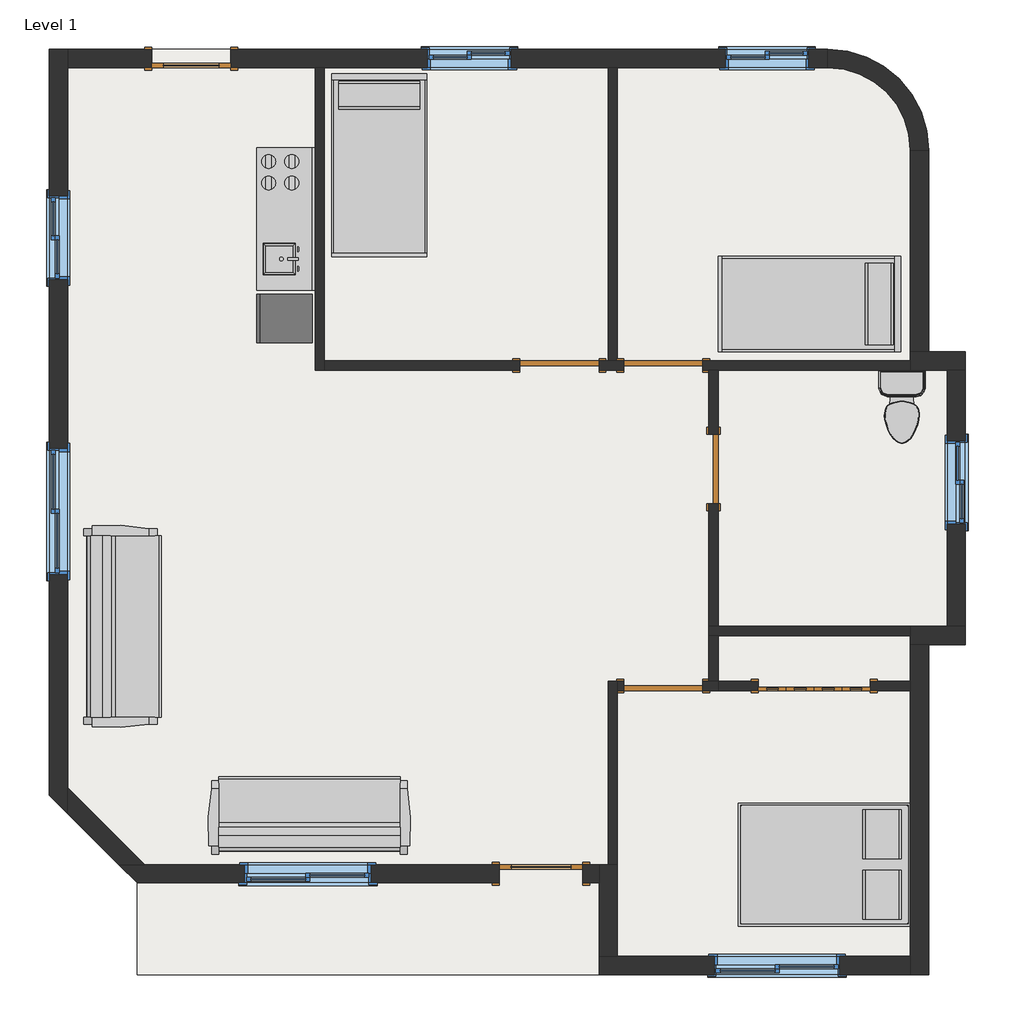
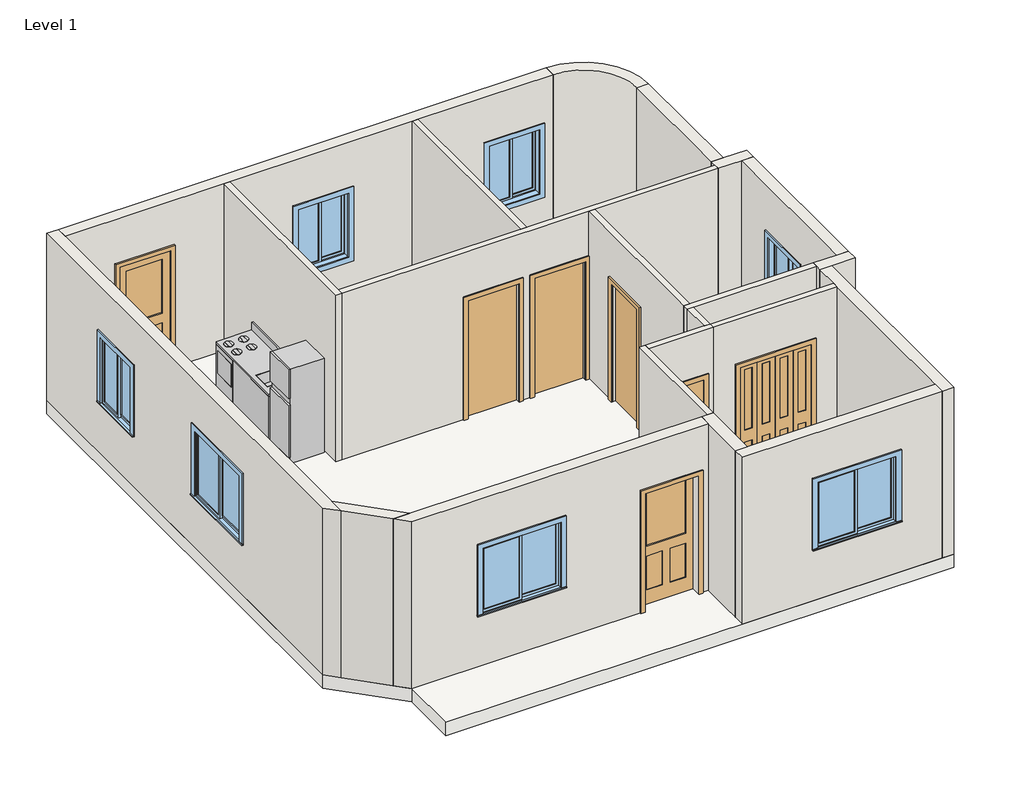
# One storey: 21 walls, 7 doors, 7 windows, 5 furniture elements, 2 flow terminals, 1 slab.
"""IFC4 building model written with IfcOpenShell, lengths in millimetres."""

from ifc_helpers import new_model, si_unit, point, frame, frame_2d, origin, origin_with_axes, place, context, project, spatial, polyline, circle_curve, trimmed, segment, composite_curve, outline, extrude, faceted_brep, transform, mapped, element, save
from components import m_bifold_4_panel_1220_x_2134mm_c9b228a8, m_single_decorative_1_0864_x_2134mm_a8b8a0d3, m_single_decorative_1_0914_x_2134mm_d79a5f66, m_single_flush_0762_x_2134mm_2f099e9c, m_single_flush_0864_x_2134mm_3838e64d, m_single_flush_0864_x_2134mm_bdbe8edc, m_kitchen_unit_635_mmx2135_mm_826748c3, m_toilet_domestic_3d_m_toilet_domestic_3d_5cb52bd4, m_toilet_domestic_3d_m_toilet_domestic_3d_183bbd19, m_bed_box_1346_x_1880mm_double_9a731973, m_bed_shaker_1040_x_1981mm_twin_31f1bf66, m_sofa_pensi_2134mm_eda8efce, m_sliding_with_trim_0915_x_1220mm_c5f69082, m_sliding_with_trim_1372_x_1220mm_1cbd48f5

model = new_model("IFC4")

# Units and contexts
model_context = context("Model", 3, world=origin())
ifc_project = project(units=[si_unit("LENGTHUNIT", "METRE", prefix="MILLI")], contexts=[model_context])

# Site, building, storey
site = spatial("IfcSite", under=ifc_project)
building = spatial("IfcBuilding", under=site)
storey = spatial("IfcBuildingStorey", under=building, Name="Level 1", Elevation=0.0)

# Doors
placement = place(None, origin())
m_bifold_4_panel_1220_x_2134mm_shape = m_bifold_4_panel_1220_x_2134mm_c9b228a8(model_context)
element("IfcDoor", 1, ObjectType="M_Bifold-4 Panel : 1220 x 2134mm", at=placement, inside=storey, context=model_context, shape_type="MappedRepresentation", body=[
    mapped(m_bifold_4_panel_1220_x_2134mm_shape, transform((-9012.9123896, -2705.4324328, 0.0), x_axis=(-1.0, 0.0, 0.0), y_axis=(0.0, -1.0, 0.0), z_axis=(0.0, 0.0, 1.0))),
])
m_single_decorative_1_0864_x_2134mm_shape = m_single_decorative_1_0864_x_2134mm_a8b8a0d3(model_context)
element("IfcDoor", 2, ObjectType="M_Single-Decorative 1 : 0864 x 2134mm", at=placement, inside=storey, context=model_context, shape_type="MappedRepresentation", body=[
    mapped(m_single_decorative_1_0864_x_2134mm_shape, transform((-15812.9123896, 4144.5675672, 0.0), x_axis=(-1.0, 0.0, 0.0), y_axis=(0.0, -1.0, 0.0), z_axis=(0.0, 0.0, 1.0))),
])
m_single_decorative_1_0914_x_2134mm_shape = m_single_decorative_1_0914_x_2134mm_d79a5f66(model_context)
element("IfcDoor", 3, ObjectType="M_Single-Decorative 1 : 0914 x 2134mm", at=placement, inside=storey, context=model_context, shape_type="MappedRepresentation", body=[
    mapped(m_single_decorative_1_0914_x_2134mm_shape, transform((-11994.9123896, -4755.4324328, 0.0), x_axis=(1.0, 0.0, 0.0), y_axis=(0.0, 1.0, 0.0), z_axis=(0.0, 0.0, 1.0))),
])
m_single_flush_0762_x_2134mm_shape = m_single_flush_0762_x_2134mm_2f099e9c(model_context)
element("IfcDoor", 4, ObjectType="M_Single-Flush : 0762 x 2134mm", at=placement, inside=storey, context=model_context, shape_type="MappedRepresentation", body=[
    mapped(m_single_flush_0762_x_2134mm_shape, transform((-10112.9123896, -336.4324328, 0.0), x_axis=(0.0, 1.0, 0.0), y_axis=(-1.0, 0.0, 0.0), z_axis=(0.0, 0.0, 1.0))),
])
m_single_flush_0864_x_2134mm_shape = m_single_flush_0864_x_2134mm_3838e64d(model_context)
element("IfcDoor", 5, ObjectType="M_Single-Flush : 0864 x 2134mm", at=placement, inside=storey, context=model_context, shape_type="MappedRepresentation", body=[
    mapped(m_single_flush_0864_x_2134mm_shape, transform((-10662.9123896, -2705.4324328, 0.0), x_axis=(-1.0, 0.0, 0.0), y_axis=(0.0, -1.0, 0.0), z_axis=(0.0, 0.0, 1.0))),
])
element("IfcDoor", 6, ObjectType="M_Single-Flush : 0864 x 2134mm", at=placement, inside=storey, context=model_context, shape_type="MappedRepresentation", body=[
    mapped(m_single_flush_0864_x_2134mm_shape, transform((-11794.9123896, 794.5675672, 0.0), x_axis=(1.0, 0.0, 0.0), y_axis=(0.0, 1.0, 0.0), z_axis=(0.0, 0.0, 1.0))),
])
m_single_flush_0864_x_2134mm_2_shape = m_single_flush_0864_x_2134mm_bdbe8edc(model_context)
element("IfcDoor", 7, ObjectType="M_Single-Flush : 0864 x 2134mm", at=placement, inside=storey, context=model_context, shape_type="MappedRepresentation", body=[
    mapped(m_single_flush_0864_x_2134mm_2_shape, transform((-10662.9123896, 794.5675672, 0.0), x_axis=(-1.0, 0.0, 0.0), y_axis=(0.0, -1.0, 0.0), z_axis=(0.0, 0.0, 1.0))),
])

# Flow terminals
m_kitchen_unit_635_mmx2135_mm_shape = m_kitchen_unit_635_mmx2135_mm_826748c3(model_context)
element("IfcFlowTerminal", 8, ObjectType="M_Kitchen Unit : 635 mmx2135 mm", at=placement, inside=storey, context=model_context, shape_type="MappedRepresentation", body=[
    mapped(m_kitchen_unit_635_mmx2135_mm_shape, transform((-14462.9123896, 2394.5675672, 0.0), x_axis=(-1.0000000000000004, 0.0, 0.0), y_axis=(0.0, -1.0000000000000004, 0.0), z_axis=(0.0, 0.0, 1.0))),
])
m_toilet_domestic_3d_m_toilet_domestic_3d_shape = m_toilet_domestic_3d_m_toilet_domestic_3d_5cb52bd4(model_context)
m_toilet_domestic_3d_m_toilet_domestic_3d_2_shape = m_toilet_domestic_3d_m_toilet_domestic_3d_183bbd19(model_context)
element("IfcFlowTerminal", 9, ObjectType="M_Toilet-Domestic-3D : M_Toilet-Domestic-3D", at=placement, inside=storey, context=model_context, shape_type="MappedRepresentation", body=[
    mapped(m_toilet_domestic_3d_m_toilet_domestic_3d_shape, transform((-8056.308417, 249.8715399, 0.0), x_axis=(1.0, 0.0, 0.0), y_axis=(0.0, 1.0, 0.0), z_axis=(0.0, 0.0, 1.0))),
    mapped(m_toilet_domestic_3d_m_toilet_domestic_3d_2_shape, transform((-8056.308417, 249.8715399, 0.0), x_axis=(1.0, 0.0, 0.0), y_axis=(0.0, 1.0, 0.0), z_axis=(0.0, 0.0, 1.0))),
])

# Furniture
m_bed_box_1346_x_1880mm_double_shape = m_bed_box_1346_x_1880mm_double_9a731973(model_context)
element("IfcFurniture", 10, ObjectType="M_Bed-Box : 1346 x 1880mm - Double", at=placement, inside=storey, context=model_context, shape_type="MappedRepresentation", body=[
    mapped(m_bed_box_1346_x_1880mm_double_shape, transform((-8668.4828814, -4316.2799738, 0.0), x_axis=(0.0, -1.0, 0.0), y_axis=(1.0, 0.0, 0.0), z_axis=(0.0, 0.0, 1.0))),
])
m_bed_shaker_1040_x_1981mm_twin_shape = m_bed_shaker_1040_x_1981mm_twin_31f1bf66(model_context)
element("IfcFurniture", 11, ObjectType="M_Bed-Shaker : 1040 x 1981mm - Twin", at=placement, inside=storey, context=model_context, shape_type="MappedRepresentation", body=[
    mapped(m_bed_shaker_1040_x_1981mm_twin_shape, transform((-8081.7123896, 1446.2175672, 0.0), x_axis=(0.0, -1.0000000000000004, 0.0), y_axis=(1.0000000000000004, 0.0, 0.0), z_axis=(0.0, 0.0, 1.0))),
])
element("IfcFurniture", 12, ObjectType="M_Bed-Shaker : 1040 x 1981mm - Twin", at=placement, inside=storey, context=model_context, shape_type="MappedRepresentation", body=[
    mapped(m_bed_shaker_1040_x_1981mm_twin_shape, transform((-13743.1623896, 3964.5675672, 0.0), x_axis=(1.0, 0.0, 0.0), y_axis=(0.0, 1.0, 0.0), z_axis=(0.0, 0.0, 1.0))),
])
m_sofa_pensi_2134mm_shape = m_sofa_pensi_2134mm_eda8efce(model_context)
element("IfcFurniture", 13, ObjectType="M_Sofa-Pensi : 2134mm", at=placement, inside=storey, context=model_context, shape_type="MappedRepresentation", body=[
    mapped(m_sofa_pensi_2134mm_shape, transform((-14244.3061396, -3838.3225967, 0.0), x_axis=(-0.9999999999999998, 0.0, 0.0), y_axis=(0.0, -0.9999999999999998, 0.0), z_axis=(0.0, 0.0, 1.0))),
])
element("IfcFurniture", 14, ObjectType="M_Sofa-Pensi : 2134mm", at=placement, inside=storey, context=model_context, shape_type="MappedRepresentation", body=[
    mapped(m_sofa_pensi_2134mm_shape, transform((-16285.8025536, -2334.0386828, 0.0), x_axis=(0.0, 1.0000000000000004, 0.0), y_axis=(-1.0000000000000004, 0.0, 0.0), z_axis=(0.0, 0.0, 1.0))),
])

# Slab
element("IfcSlab", 15, ObjectType="Standard Timber-Wood Finish", at=placement, inside=storey, context=model_context, shape_type="SweptSolid", body=[
    extrude(outline(composite_curve([segment(polyline([(-7762.9123896, 944.5675672), (-7362.9123896, 944.5675672), (-7362.9123896, -2255.4324328), (-7762.9123896, -2255.4324328), (-7762.9123896, -5855.4324328), (-16404.3337459, -5855.4324328), (-16404.3337459, -4855.4324328), (-17362.9123896, -3896.853789), (-17362.9123896, 4244.5675672), (-8862.9123896, 4244.5675672)]), True, "CONTINUOUS"), segment(trimmed(circle_curve(frame_2d((-8862.9123896, 3144.5675672)), 1100.0), [point((-8862.9123896, 4244.5675672))], [point((-7762.9123896, 3144.5675672))], False, "CARTESIAN"), True, "CONTINUOUS"), segment(polyline([(-7762.9123896, 3144.5675672), (-7762.9123896, 944.5675672)]), True, "CONTINUOUS")], self_intersect=False)), frame((0.0, 0.0, -241.0), z_axis=(0.0, 0.0, 1.0), x_axis=(1.0, 0.0, 0.0)), (0.0, 0.0, 1.0), 241.0),
])

# Walls
element("IfcWall", 16, ObjectType="Generic - 100mm", at=placement, inside=storey, context=model_context, shape_type="Brep", body=[
    faceted_brep([(-7962.9123896, -2055.4324328, 0.0), (-10062.9123896, -2055.4324328, 0.0), (-10162.9123896, -2055.4324328, 0.0), (-10162.9123896, -2055.4324328, 3000.0), (-10062.9123896, -2055.4324328, 3000.0), (-7962.9123896, -2055.4324328, 3000.0), (-7962.9123896, -2155.4324328, 0.0), (-7962.9123896, -2155.4324328, 3000.0), (-10062.9123896, -2155.4324328, 3000.0), (-10162.9123896, -2155.4324328, 3000.0), (-10162.9123896, -2155.4324328, 0.0), (-10062.9123896, -2155.4324328, 0.0)], [[[0, 1, 2, 3, 4, 5]], [[6, 7, 8, 9, 10, 11]], [[2, 1, 0, 6, 11, 10]], [[5, 4, 3, 9, 8, 7]], [[0, 5, 7, 6]], [[3, 2, 10, 9]]]),
])
element("IfcWall", 17, ObjectType="Generic - 100mm", at=placement, inside=storey, context=model_context, shape_type="Brep", body=[
    faceted_brep([(-11262.9123896, -2655.4324328, 0.0), (-11262.9123896, -4655.4324328, 0.0), (-11262.9123896, -4655.4324328, 3000.0), (-11262.9123896, -2655.4324328, 3000.0), (-11162.9123896, -2655.4324328, 0.0), (-11162.9123896, -2655.4324328, 3000.0), (-11162.9123896, -2755.4324328, 3000.0), (-11162.9123896, -4655.4324328, 3000.0), (-11162.9123896, -4655.4324328, 0.0), (-11162.9123896, -2755.4324328, 0.0)], [[[0, 1, 2, 3]], [[4, 5, 6, 7, 8, 9]], [[1, 0, 4, 9, 8]], [[3, 2, 7, 6, 5]], [[2, 1, 8, 7]], [[0, 3, 5, 4]]]),
])
element("IfcWall", 18, ObjectType="Generic - 100mm", at=placement, inside=storey, context=model_context, shape_type="Brep", body=[
    faceted_brep([(-11094.9123896, -2655.4324328, 2134.0), (-11094.9123896, -2655.4324328, 0.0), (-11162.9123896, -2655.4324328, 0.0), (-11162.9123896, -2655.4324328, 3000.0), (-10162.9123896, -2655.4324328, 3000.0), (-10062.9123896, -2655.4324328, 3000.0), (-10062.9123896, -2655.4324328, 0.0), (-10162.9123896, -2655.4324328, 0.0), (-10230.9123896, -2655.4324328, 0.0), (-10230.9123896, -2655.4324328, 2134.0), (-11162.9123896, -2755.4324328, 0.0), (-11094.9123896, -2755.4324328, 0.0), (-11094.9123896, -2755.4324328, 2134.0), (-10230.9123896, -2755.4324328, 2134.0), (-10230.9123896, -2755.4324328, 0.0), (-10062.9123896, -2755.4324328, 0.0), (-10062.9123896, -2755.4324328, 3000.0), (-11162.9123896, -2755.4324328, 3000.0)], [[[0, 1, 2, 3, 4, 5, 6, 7, 8, 9]], [[10, 11, 12, 13, 14, 15, 16, 17]], [[2, 1, 11, 10]], [[8, 7, 6, 15, 14]], [[5, 4, 3, 17, 16]], [[3, 2, 10, 17]], [[6, 5, 16, 15]], [[12, 11, 1, 0]], [[13, 12, 0, 9]], [[14, 13, 9, 8]]]),
])
element("IfcWall", 19, ObjectType="Generic - 100mm", at=placement, inside=storey, context=model_context, shape_type="SweptSolid", body=[
    extrude(outline(polyline([(-10162.9123896, -2655.4324328), (-10162.9123896, -2155.4324328), (-10062.9123896, -2155.4324328), (-10062.9123896, -2655.4324328), (-10162.9123896, -2655.4324328)])), origin_with_axes(), (0.0, 0.0, 1.0), 3000.0),
])
element("IfcWall", 20, ObjectType="Generic - 100mm", at=placement, inside=storey, context=model_context, shape_type="SweptSolid", body=[
    extrude(outline(polyline([(3000.0, -7962.9123896), (3000.0, -10062.9123896), (0.0, -10062.9123896), (0.0, -9622.9123896), (2134.0, -9622.9123896), (2134.0, -8402.9123896), (0.0, -8402.9123896), (0.0, -7962.9123896), (3000.0, -7962.9123896)])), frame((0.0, -2755.4324328, 0.0), z_axis=(0.0, 1.0, 0.0), x_axis=(0.0, 0.0, 1.0)), (0.0, 0.0, 1.0), 100.0),
])
element("IfcWall", 21, ObjectType="Generic - 100mm", at=placement, inside=storey, context=model_context, shape_type="Brep", body=[
    faceted_brep([(-11094.9123896, 844.5675672, 0.0), (-11162.9123896, 844.5675672, 0.0), (-11262.9123896, 844.5675672, 0.0), (-11362.9123896, 844.5675672, 0.0), (-11362.9123896, 844.5675672, 2134.0), (-12226.9123896, 844.5675672, 2134.0), (-12226.9123896, 844.5675672, 0.0), (-14362.9123896, 844.5675672, 0.0), (-14362.9123896, 844.5675672, 3000.0), (-11262.9123896, 844.5675672, 3000.0), (-11162.9123896, 844.5675672, 3000.0), (-7962.9123896, 844.5675672, 3000.0), (-7962.9123896, 844.5675672, 0.0), (-10230.9123896, 844.5675672, 0.0), (-10230.9123896, 844.5675672, 2134.0), (-11094.9123896, 844.5675672, 2134.0), (-11362.9123896, 744.5675672, 2134.0), (-11362.9123896, 744.5675672, 0.0), (-11094.9123896, 744.5675672, 0.0), (-11094.9123896, 744.5675672, 2134.0), (-10230.9123896, 744.5675672, 2134.0), (-10230.9123896, 744.5675672, 0.0), (-10162.9123896, 744.5675672, 0.0), (-10062.9123896, 744.5675672, 0.0), (-7962.9123896, 744.5675672, 0.0), (-7962.9123896, 744.5675672, 3000.0), (-10062.9123896, 744.5675672, 3000.0), (-10162.9123896, 744.5675672, 3000.0), (-14362.9123896, 744.5675672, 3000.0), (-14362.9123896, 744.5675672, 0.0), (-12226.9123896, 744.5675672, 0.0), (-12226.9123896, 744.5675672, 2134.0)], [[[0, 1, 2, 3, 4, 5, 6, 7, 8, 9, 10, 11, 12, 13, 14, 15]], [[16, 17, 18, 19, 20, 21, 22, 23, 24, 25, 26, 27, 28, 29, 30, 31]], [[13, 12, 24, 23, 22, 21]], [[30, 29, 7, 6]], [[18, 17, 3, 2, 1, 0]], [[11, 10, 9, 8, 28, 27, 26, 25]], [[12, 11, 25, 24]], [[8, 7, 29, 28]], [[19, 18, 0, 15]], [[20, 19, 15, 14]], [[21, 20, 14, 13]], [[4, 3, 17, 16]], [[5, 4, 16, 31]], [[6, 5, 31, 30]]]),
])
element("IfcWall", 22, ObjectType="Generic - 100mm", at=placement, inside=storey, context=model_context, shape_type="SweptSolid", body=[
    extrude(outline(polyline([(744.5675672, 0.0), (44.5675672, 0.0), (44.5675672, 2134.0), (-717.4324328, 2134.0), (-717.4324328, 0.0), (-2055.4324328, 0.0), (-2055.4324328, 3000.0), (744.5675672, 3000.0), (744.5675672, 0.0)])), frame((-10162.9123896, 0.0, 0.0), z_axis=(1.0, 0.0, 0.0), x_axis=(0.0, 1.0, 0.0)), (0.0, 0.0, 1.0), 100.0),
])
element("IfcWall", 23, ObjectType="Generic - 100mm", at=placement, inside=storey, context=model_context, shape_type="Brep", body=[
    faceted_brep([(-14462.9123896, 4044.5675672, 0.0), (-14462.9123896, 744.5675672, 0.0), (-14462.9123896, 744.5675672, 3000.0), (-14462.9123896, 4044.5675672, 3000.0), (-14362.9123896, 4044.5675672, 0.0), (-14362.9123896, 4044.5675672, 3000.0), (-14362.9123896, 844.5675672, 3000.0), (-14362.9123896, 744.5675672, 3000.0), (-14362.9123896, 744.5675672, 0.0), (-14362.9123896, 844.5675672, 0.0)], [[[0, 1, 2, 3]], [[4, 5, 6, 7, 8, 9]], [[1, 0, 4, 9, 8]], [[3, 2, 7, 6, 5]], [[0, 3, 5, 4]], [[2, 1, 8, 7]]]),
])
element("IfcWall", 24, ObjectType="Generic - 100mm", at=placement, inside=storey, context=model_context, shape_type="SweptSolid", body=[
    extrude(outline(polyline([(-11262.9123896, 844.5675672), (-11262.9123896, 4044.5675672), (-11162.9123896, 4044.5675672), (-11162.9123896, 844.5675672), (-11262.9123896, 844.5675672)])), origin_with_axes(), (0.0, 0.0, 1.0), 3000.0),
])
element("IfcWall", 25, ObjectType="Generic - 200mm", at=placement, inside=storey, context=model_context, shape_type="Brep", body=[
    faceted_brep([(-17162.9123896, -4096.853789, 0.0), (-17162.9123896, -3814.0110766, 0.0), (-17162.9123896, 4044.5675672, 0.0), (-17162.9123896, 4244.5675672, 0.0), (-17162.9123896, 4244.5675672, 3000.0), (-17162.9123896, 4044.5675672, 3000.0), (-17162.9123896, -3814.0110766, 3000.0), (-17162.9123896, -4096.853789, 3000.0), (-17162.9123896, -113.4824328, 2135.0), (-17162.9123896, -113.4824328, 915.0), (-17162.9123896, -1485.4824328, 915.0), (-17162.9123896, -1485.4824328, 2135.0), (-17162.9123896, 2644.5675672, 2135.0), (-17162.9123896, 2644.5675672, 915.0), (-17162.9123896, 1729.5675672, 915.0), (-17162.9123896, 1729.5675672, 2135.0), (-17362.9123896, -3896.853789, 0.0), (-17362.9123896, -3896.853789, 3000.0), (-17362.9123896, 4244.5675672, 3000.0), (-17362.9123896, 4244.5675672, 0.0), (-17362.9123896, -113.4824328, 2135.0), (-17362.9123896, -1485.4824328, 2135.0), (-17362.9123896, -1485.4824328, 915.0), (-17362.9123896, -113.4824328, 915.0), (-17362.9123896, 2644.5675672, 2135.0), (-17362.9123896, 1729.5675672, 2135.0), (-17362.9123896, 1729.5675672, 915.0), (-17362.9123896, 2644.5675672, 915.0)], [[[0, 1, 2, 3, 4, 5, 6, 7], [8, 9, 10, 11], [12, 13, 14, 15]], [[16, 17, 18, 19], [20, 21, 22, 23], [24, 25, 26, 27]], [[3, 2, 1, 0, 16, 19]], [[7, 6, 5, 4, 18, 17]], [[4, 3, 19, 18]], [[9, 8, 20, 23]], [[10, 9, 23, 22]], [[11, 10, 22, 21]], [[8, 11, 21, 20]], [[13, 12, 24, 27]], [[14, 13, 27, 26]], [[15, 14, 26, 25]], [[12, 15, 25, 24]], [[0, 7, 17, 16]]]),
])
element("IfcWall", 26, ObjectType="Generic - 200mm", at=placement, inside=storey, context=model_context, shape_type="Brep", body=[
    faceted_brep([(-8862.9123896, 4044.5675672, 0.0), (-8862.9123896, 4044.5675672, 3000.0), (-11162.9123896, 4044.5675672, 3000.0), (-11262.9123896, 4044.5675672, 3000.0), (-14362.9123896, 4044.5675672, 3000.0), (-14462.9123896, 4044.5675672, 3000.0), (-17162.9123896, 4044.5675672, 3000.0), (-17162.9123896, 4044.5675672, 0.0), (-16244.9123896, 4044.5675672, 0.0), (-16244.9123896, 4044.5675672, 2134.0), (-15380.9123896, 4044.5675672, 2134.0), (-15380.9123896, 4044.5675672, 0.0), (-14462.9123896, 4044.5675672, 0.0), (-14362.9123896, 4044.5675672, 0.0), (-11262.9123896, 4044.5675672, 0.0), (-11162.9123896, 4044.5675672, 0.0), (-9070.4373896, 4044.5675672, 2135.0), (-9070.4373896, 4044.5675672, 915.0), (-9985.4373896, 4044.5675672, 915.0), (-9985.4373896, 4044.5675672, 2135.0), (-12320.4373896, 4044.5675672, 2135.0), (-12320.4373896, 4044.5675672, 915.0), (-13235.4373896, 4044.5675672, 915.0), (-13235.4373896, 4044.5675672, 2135.0), (-8862.9123896, 4244.5675672, 3000.0), (-8862.9123896, 4244.5675672, 0.0), (-15380.9123896, 4244.5675672, 0.0), (-15380.9123896, 4244.5675672, 2134.0), (-16244.9123896, 4244.5675672, 2134.0), (-16244.9123896, 4244.5675672, 0.0), (-17162.9123896, 4244.5675672, 0.0), (-17162.9123896, 4244.5675672, 3000.0), (-9070.4373896, 4244.5675672, 2135.0), (-9985.4373896, 4244.5675672, 2135.0), (-9985.4373896, 4244.5675672, 915.0), (-9070.4373896, 4244.5675672, 915.0), (-12320.4373896, 4244.5675672, 2135.0), (-13235.4373896, 4244.5675672, 2135.0), (-13235.4373896, 4244.5675672, 915.0), (-12320.4373896, 4244.5675672, 915.0)], [[[0, 1, 2, 3, 4, 5, 6, 7, 8, 9, 10, 11, 12, 13, 14, 15], [16, 17, 18, 19], [20, 21, 22, 23]], [[24, 25, 26, 27, 28, 29, 30, 31], [32, 33, 34, 35], [36, 37, 38, 39]], [[7, 30, 29, 8]], [[25, 0, 15, 14, 13, 12, 11, 26]], [[1, 0, 25, 24]], [[6, 5, 4, 3, 2, 1, 24, 31]], [[7, 6, 31, 30]], [[28, 9, 8, 29]], [[9, 28, 27, 10]], [[10, 27, 26, 11]], [[17, 16, 32, 35]], [[18, 17, 35, 34]], [[19, 18, 34, 33]], [[16, 19, 33, 32]], [[21, 20, 36, 39]], [[22, 21, 39, 38]], [[23, 22, 38, 37]], [[20, 23, 37, 36]]]),
])
element("IfcWall", 27, ObjectType="Generic - 200mm", at=placement, inside=storey, context=model_context, shape_type="SweptSolid", body=[
    extrude(outline(polyline([(-7962.9123896, 944.5675672), (-7962.9123896, 3144.5675672), (-7762.9123896, 3144.5675672), (-7762.9123896, 944.5675672), (-7962.9123896, 944.5675672)])), origin_with_axes(), (0.0, 0.0, 1.0), 3000.0),
])
element("IfcWall", 28, ObjectType="Generic - 200mm", at=placement, inside=storey, context=model_context, shape_type="Brep", body=[
    faceted_brep([(-7962.9123896, 744.5675672, 0.0), (-7562.9123896, 744.5675672, 0.0), (-7362.9123896, 744.5675672, 0.0), (-7362.9123896, 744.5675672, 3000.0), (-7562.9123896, 744.5675672, 3000.0), (-7962.9123896, 744.5675672, 3000.0), (-7962.9123896, 944.5675672, 0.0), (-7962.9123896, 944.5675672, 3000.0), (-7762.9123896, 944.5675672, 3000.0), (-7362.9123896, 944.5675672, 3000.0), (-7362.9123896, 944.5675672, 0.0), (-7762.9123896, 944.5675672, 0.0), (-7962.9123896, 844.5675672, 0.0), (-7962.9123896, 844.5675672, 3000.0)], [[[0, 1, 2, 3, 4, 5]], [[6, 7, 8, 9, 10, 11]], [[2, 1, 0, 12, 6, 11, 10]], [[5, 4, 3, 9, 8, 7, 13]], [[0, 5, 13, 7, 6, 12]], [[3, 2, 10, 9]]]),
])
element("IfcWall", 29, ObjectType="Generic - 200mm", at=placement, inside=storey, context=model_context, shape_type="SweptSolid", body=[
    extrude(outline(polyline([(744.5675672, 0.0), (-2055.4324328, 0.0), (-2055.4324328, 3000.0), (744.5675672, 3000.0), (744.5675672, 0.0)]), holes=[polyline([(-940.3824328, 2135.0), (-940.3824328, 915.0), (-25.3824328, 915.0), (-25.3824328, 2135.0), (-940.3824328, 2135.0)])]), frame((-7562.9123896, 0.0, 0.0), z_axis=(1.0, 0.0, 0.0), x_axis=(0.0, 1.0, 0.0)), (0.0, 0.0, 1.0), 200.0),
])
element("IfcWall", 30, ObjectType="Generic - 200mm", at=placement, inside=storey, context=model_context, shape_type="Brep", body=[
    faceted_brep([(-7362.9123896, -2055.4324328, 0.0), (-7562.9123896, -2055.4324328, 0.0), (-7962.9123896, -2055.4324328, 0.0), (-7962.9123896, -2055.4324328, 3000.0), (-7562.9123896, -2055.4324328, 3000.0), (-7362.9123896, -2055.4324328, 3000.0), (-7362.9123896, -2255.4324328, 0.0), (-7362.9123896, -2255.4324328, 3000.0), (-7762.9123896, -2255.4324328, 3000.0), (-7962.9123896, -2255.4324328, 3000.0), (-7962.9123896, -2255.4324328, 0.0), (-7762.9123896, -2255.4324328, 0.0), (-7962.9123896, -2155.4324328, 0.0), (-7962.9123896, -2155.4324328, 3000.0)], [[[0, 1, 2, 3, 4, 5]], [[6, 7, 8, 9, 10, 11]], [[2, 1, 0, 6, 11, 10, 12]], [[5, 4, 3, 13, 9, 8, 7]], [[0, 5, 7, 6]], [[3, 2, 12, 10, 9, 13]]]),
])
element("IfcWall", 31, ObjectType="Generic - 200mm", at=placement, inside=storey, context=model_context, shape_type="Brep", body=[
    faceted_brep([(-7962.9123896, -2255.4324328, 0.0), (-7962.9123896, -2655.4324328, 0.0), (-7962.9123896, -2755.4324328, 0.0), (-7962.9123896, -5655.4324328, 0.0), (-7962.9123896, -5855.4324328, 0.0), (-7962.9123896, -5855.4324328, 3000.0), (-7962.9123896, -5655.4324328, 3000.0), (-7962.9123896, -2755.4324328, 3000.0), (-7962.9123896, -2655.4324328, 3000.0), (-7962.9123896, -2255.4324328, 3000.0), (-7762.9123896, -2255.4324328, 0.0), (-7762.9123896, -2255.4324328, 3000.0), (-7762.9123896, -5855.4324328, 3000.0), (-7762.9123896, -5855.4324328, 0.0)], [[[0, 1, 2, 3, 4, 5, 6, 7, 8, 9]], [[10, 11, 12, 13]], [[4, 3, 2, 1, 0, 10, 13]], [[9, 8, 7, 6, 5, 12, 11]], [[0, 9, 11, 10]], [[5, 4, 13, 12]]]),
])
element("IfcWall", 32, ObjectType="Generic - 200mm", at=placement, inside=storey, context=model_context, shape_type="Brep", body=[
    faceted_brep([(-7962.9123896, -5655.4324328, 0.0), (-11162.9123896, -5655.4324328, 0.0), (-11362.9123896, -5655.4324328, 0.0), (-11362.9123896, -5655.4324328, 3000.0), (-11162.9123896, -5655.4324328, 3000.0), (-7962.9123896, -5655.4324328, 3000.0), (-10104.8623896, -5655.4324328, 2135.0), (-10104.8623896, -5655.4324328, 915.0), (-8732.8623896, -5655.4324328, 915.0), (-8732.8623896, -5655.4324328, 2135.0), (-7962.9123896, -5855.4324328, 0.0), (-7962.9123896, -5855.4324328, 3000.0), (-11362.9123896, -5855.4324328, 3000.0), (-11362.9123896, -5855.4324328, 0.0), (-10104.8623896, -5855.4324328, 2135.0), (-8732.8623896, -5855.4324328, 2135.0), (-8732.8623896, -5855.4324328, 915.0), (-10104.8623896, -5855.4324328, 915.0)], [[[0, 1, 2, 3, 4, 5], [6, 7, 8, 9]], [[10, 11, 12, 13], [14, 15, 16, 17]], [[2, 1, 0, 10, 13]], [[5, 4, 3, 12, 11]], [[0, 5, 11, 10]], [[3, 2, 13, 12]], [[7, 6, 14, 17]], [[8, 7, 17, 16]], [[9, 8, 16, 15]], [[6, 9, 15, 14]]]),
])
element("IfcWall", 33, ObjectType="Generic - 200mm", at=placement, inside=storey, context=model_context, shape_type="Brep", body=[
    faceted_brep([(-11162.9123896, -5655.4324328, 0.0), (-11162.9123896, -4655.4324328, 0.0), (-11162.9123896, -4655.4324328, 3000.0), (-11162.9123896, -5655.4324328, 3000.0), (-11362.9123896, -5655.4324328, 0.0), (-11362.9123896, -5655.4324328, 3000.0), (-11362.9123896, -4855.4324328, 3000.0), (-11362.9123896, -4655.4324328, 3000.0), (-11362.9123896, -4655.4324328, 0.0), (-11362.9123896, -4855.4324328, 0.0), (-11262.9123896, -4655.4324328, 0.0), (-11262.9123896, -4655.4324328, 3000.0)], [[[0, 1, 2, 3]], [[4, 5, 6, 7, 8, 9]], [[1, 0, 4, 9, 8, 10]], [[3, 2, 11, 7, 6, 5]], [[0, 3, 5, 4]], [[2, 1, 10, 8, 7, 11]]]),
])
element("IfcWall", 34, ObjectType="Generic - 200mm", at=placement, inside=storey, context=model_context, shape_type="Brep", body=[
    faceted_brep([(-16604.3337459, -4655.4324328, 3000.0), (-16321.4910334, -4655.4324328, 3000.0), (-11362.9123896, -4655.4324328, 3000.0), (-11362.9123896, -4655.4324328, 0.0), (-11537.9123896, -4655.4324328, 0.0), (-11537.9123896, -4655.4324328, 2134.0), (-12451.9123896, -4655.4324328, 2134.0), (-12451.9123896, -4655.4324328, 0.0), (-16321.4910334, -4655.4324328, 0.0), (-16604.3337459, -4655.4324328, 0.0), (-15228.3873896, -4655.4324328, 2135.0), (-15228.3873896, -4655.4324328, 915.0), (-13856.3873896, -4655.4324328, 915.0), (-13856.3873896, -4655.4324328, 2135.0), (-11362.9123896, -4855.4324328, 3000.0), (-16404.3337459, -4855.4324328, 3000.0), (-16404.3337459, -4855.4324328, 0.0), (-12451.9123896, -4855.4324328, 0.0), (-12451.9123896, -4855.4324328, 2134.0), (-11537.9123896, -4855.4324328, 2134.0), (-11537.9123896, -4855.4324328, 0.0), (-11362.9123896, -4855.4324328, 0.0), (-15228.3873896, -4855.4324328, 2135.0), (-13856.3873896, -4855.4324328, 2135.0), (-13856.3873896, -4855.4324328, 915.0), (-15228.3873896, -4855.4324328, 915.0)], [[[0, 1, 2, 3, 4, 5, 6, 7, 8, 9], [10, 11, 12, 13]], [[14, 15, 16, 17, 18, 19, 20, 21], [22, 23, 24, 25]], [[3, 21, 20, 4]], [[16, 9, 8, 7, 17]], [[2, 1, 0, 15, 14]], [[19, 5, 4, 20]], [[5, 19, 18, 6]], [[6, 18, 17, 7]], [[11, 10, 22, 25]], [[12, 11, 25, 24]], [[13, 12, 24, 23]], [[10, 13, 23, 22]], [[3, 2, 14, 21]], [[0, 9, 16, 15]]]),
])
element("IfcWall", 35, ObjectType="Generic - 200mm", at=placement, inside=storey, context=model_context, shape_type="SweptSolid", body=[
    extrude(outline(composite_curve([segment(polyline([(-8862.9123896, 4044.5675672), (-8862.9123896, 4244.5675672)]), True, "CONTINUOUS"), segment(trimmed(circle_curve(frame_2d((-8862.9123896, 3144.5675672)), 1100.0), [point((-8862.9123896, 4244.5675672))], [point((-7762.9123896, 3144.5675672))], False, "CARTESIAN"), True, "CONTINUOUS"), segment(polyline([(-7762.9123896, 3144.5675672), (-7962.9123896, 3144.5675672)]), True, "CONTINUOUS"), segment(trimmed(circle_curve(frame_2d((-8862.9123896, 3144.5675672)), 900.0), [point((-7962.9123896, 3144.5675672))], [point((-8862.9123896, 4044.5675672))], True, "CARTESIAN"), True, "CONTINUOUS")], self_intersect=False)), origin_with_axes(), (0.0, 0.0, 1.0), 3000.0),
])
element("IfcWall", 36, ObjectType="Generic - 200mm", at=placement, inside=storey, context=model_context, shape_type="SweptSolid", body=[
    extrude(outline(polyline([(-17162.9123896, -3814.0110766), (-16321.4910334, -4655.4324328), (-16604.3337459, -4655.4324328), (-17162.9123896, -4096.853789), (-17162.9123896, -3814.0110766)])), origin_with_axes(), (0.0, 0.0, 1.0), 3000.0),
])

# Windows
m_sliding_with_trim_0915_x_1220mm_shape = m_sliding_with_trim_0915_x_1220mm_c5f69082(model_context)
element("IfcWindow", 37, ObjectType="M_Sliding with Trim : 0915 x 1220mm", at=placement, inside=storey, context=model_context, shape_type="MappedRepresentation", body=[
    mapped(m_sliding_with_trim_0915_x_1220mm_shape, transform((-7462.9123896, -482.8824328, 0.0), x_axis=(0.0, -1.0, 0.0), y_axis=(1.0, 0.0, 0.0), z_axis=(0.0, 0.0, 1.0))),
])
element("IfcWindow", 38, ObjectType="M_Sliding with Trim : 0915 x 1220mm", at=placement, inside=storey, context=model_context, shape_type="MappedRepresentation", body=[
    mapped(m_sliding_with_trim_0915_x_1220mm_shape, transform((-9527.9373896, 4144.5675672, 0.0), x_axis=(1.0, 0.0, 0.0), y_axis=(0.0, 1.0, 0.0), z_axis=(0.0, 0.0, 1.0))),
])
element("IfcWindow", 39, ObjectType="M_Sliding with Trim : 0915 x 1220mm", at=placement, inside=storey, context=model_context, shape_type="MappedRepresentation", body=[
    mapped(m_sliding_with_trim_0915_x_1220mm_shape, transform((-12777.9373896, 4144.5675672, 0.0), x_axis=(1.0, 0.0, 0.0), y_axis=(0.0, 1.0, 0.0), z_axis=(0.0, 0.0, 1.0))),
])
element("IfcWindow", 40, ObjectType="M_Sliding with Trim : 0915 x 1220mm", at=placement, inside=storey, context=model_context, shape_type="MappedRepresentation", body=[
    mapped(m_sliding_with_trim_0915_x_1220mm_shape, transform((-17262.9123896, 2187.0675672, 0.0), x_axis=(0.0, 1.0, 0.0), y_axis=(-1.0, 0.0, 0.0), z_axis=(0.0, 0.0, 1.0))),
])
m_sliding_with_trim_1372_x_1220mm_shape = m_sliding_with_trim_1372_x_1220mm_1cbd48f5(model_context)
element("IfcWindow", 41, ObjectType="M_Sliding with Trim : 1372 x 1220mm", at=placement, inside=storey, context=model_context, shape_type="MappedRepresentation", body=[
    mapped(m_sliding_with_trim_1372_x_1220mm_shape, transform((-14542.3873896, -4755.4324328, 0.0), x_axis=(-1.0, 0.0, 0.0), y_axis=(0.0, -1.0, 0.0), z_axis=(0.0, 0.0, 1.0))),
])
element("IfcWindow", 42, ObjectType="M_Sliding with Trim : 1372 x 1220mm", at=placement, inside=storey, context=model_context, shape_type="MappedRepresentation", body=[
    mapped(m_sliding_with_trim_1372_x_1220mm_shape, transform((-17262.9123896, -799.4824328, 0.0), x_axis=(0.0, 1.0, 0.0), y_axis=(-1.0, 0.0, 0.0), z_axis=(0.0, 0.0, 1.0))),
])
element("IfcWindow", 43, ObjectType="M_Sliding with Trim : 1372 x 1220mm", at=placement, inside=storey, context=model_context, shape_type="MappedRepresentation", body=[
    mapped(m_sliding_with_trim_1372_x_1220mm_shape, transform((-9418.8623896, -5755.4324328, 0.0), x_axis=(-1.0, 0.0, 0.0), y_axis=(0.0, -1.0, 0.0), z_axis=(0.0, 0.0, 1.0))),
])

save(model, "model.ifc")
